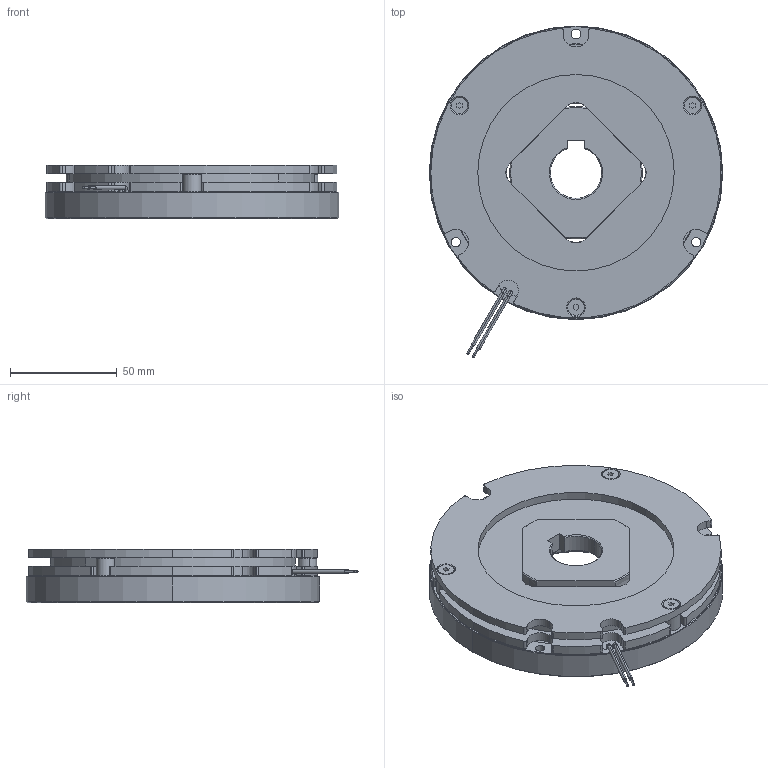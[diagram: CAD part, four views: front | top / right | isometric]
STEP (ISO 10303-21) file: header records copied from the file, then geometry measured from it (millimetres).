
FILE_DESCRIPTION (( 'STEP AP214' ), '1' );
FILE_NAME ('ÌÞÚ°·_BXR-12-10.STEP', '2017-07-31T08:21:49', ( 'MIKI' ), ( '' ), 'SwSTEP 2.0', 'SolidWorks 2012', '' );
FILE_SCHEMA (( 'AUTOMOTIVE_DESIGN' ));
Length unit declared in the file: millimetre
Products named in the file (1): 枌痚愷BXR-12-10
Bounding box: 137.5 x 155.49 x 25 mm (x, y, z)
Volume: 269580.9 mm3; surface area: 76220.9 mm2
Topology: 1 solids, 4 shells, 329 faces, 834 edges, 527 vertices
Faces by surface type: cylinder 161, plane 103, cone 59, torus 6
Entity records: 13756 total; most frequent: DIRECTION 1891, CARTESIAN_POINT 1757, ORIENTED_EDGE 1668, EDGE_CURVE 834, AXIS2_PLACEMENT_3D 749, VERTEX_POINT 527, CIRCLE 419, LINE 393
